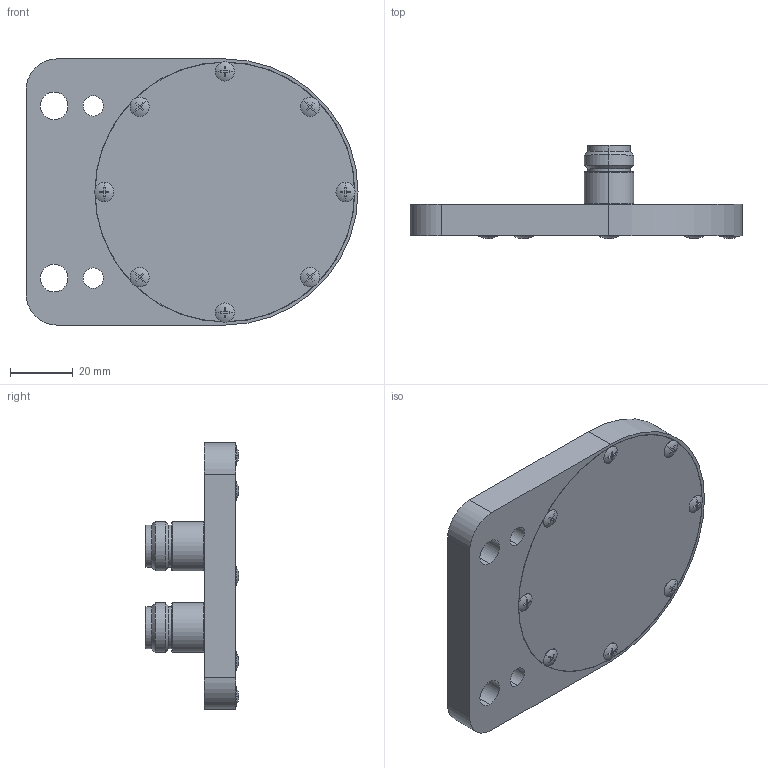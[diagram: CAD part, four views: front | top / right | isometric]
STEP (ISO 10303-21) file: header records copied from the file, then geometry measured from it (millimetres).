
FILE_DESCRIPTION (( 'STEP AP214' ), '1' );
FILE_NAME ('200-10-15-01 V25-100.00(c) Kunde.STEP', '2015-12-16T07:48:24', ( '' ), ( '' ), 'SwSTEP 2.0', 'SolidWorks 2015', '' );
FILE_SCHEMA (( 'AUTOMOTIVE_DESIGN' ));
Length unit declared in the file: millimetre
Products named in the file (7): V-25-100.05+06(c); 200-10-15-01 V25-100.00(c) Kunde; SR-0084-030-006-03; SR-0966-030-006-03; ZB_Einpressbuchse_PIN_1mm gekürzt; DI-60.003 O-Ring schwarz; AS-80.008(a)
Assembly tree (17 placements, depth 2):
  200-10-15-01 V25-100.00(c) Kunde
    V-25-100.05+06(c)
    AS-80.008(a)
    DI-60.003 O-Ring schwarz
    ZB_Einpressbuchse_PIN_1mm gekürzt  x2
    SR-0966-030-006-03  x8
    SR-0084-030-006-03  x4
Bounding box: 106 x 29.83 x 85 mm (x, y, z)
Volume: 75347.7 mm3; surface area: 40245.3 mm2
Topology: 17 solids, 17 shells, 2339 faces, 6101 edges, 4004 vertices
Faces by surface type: plane 1908, cylinder 178, cone 120, bspline 91, torus 42
Entity records: 43191 total; most frequent: CARTESIAN_POINT 12024, ORIENTED_EDGE 6514, DIRECTION 5871, EDGE_CURVE 3257, LINE 2571, VECTOR 2571, VERTEX_POINT 2143, AXIS2_PLACEMENT_3D 1650
